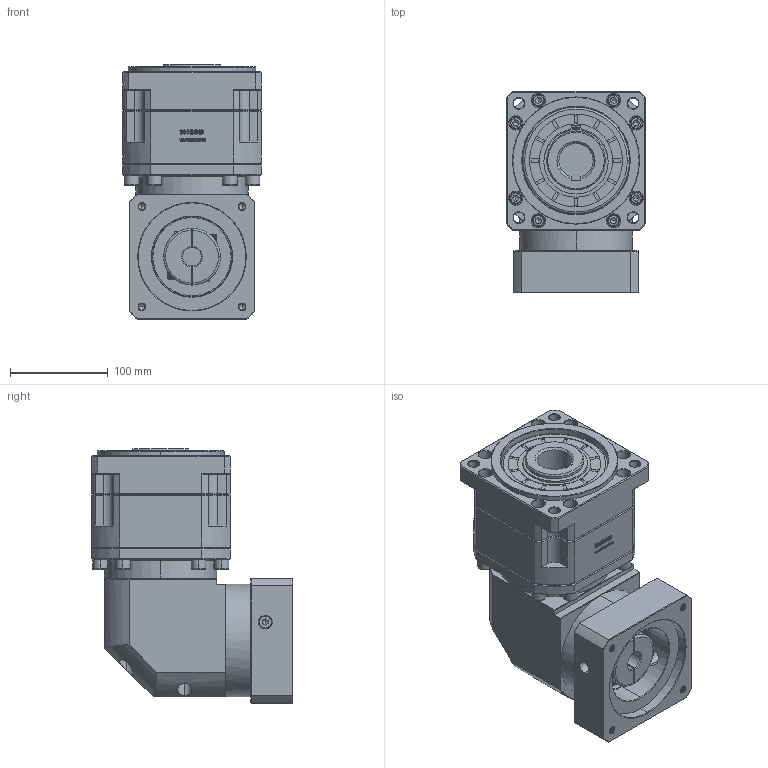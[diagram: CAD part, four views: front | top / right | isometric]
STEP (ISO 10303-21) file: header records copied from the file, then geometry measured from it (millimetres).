
FILE_DESCRIPTION (( 'STEP AP214' ), '1' );
FILE_NAME ('ZBR142A-K35-L2-19-110-145-M8.step', '2023-03-20T04:14:18', ( '' ), ( '' ), 'SwSTEP 2.0', 'SolidWorks 2016', '' );
FILE_SCHEMA (( 'AUTOMOTIVE_DESIGN' ));
Length unit declared in the file: millimetre
Products named in the file (1): ZBR142A-K35-L2-19-110-145-M8
Bounding box: 142 x 205.9 x 260.2 mm (x, y, z)
Volume: 4318815.7 mm3; surface area: 319344.9 mm2
Topology: 6 solids, 6 shells, 3132 faces, 8256 edges, 5291 vertices
Faces by surface type: plane 1645, bspline 586, cylinder 465, cone 392, torus 44
Entity records: 164145 total; most frequent: CARTESIAN_POINT 56745, ORIENTED_EDGE 16408, DIRECTION 12868, EDGE_CURVE 8204, LINE 5530, VECTOR 5530, VERTEX_POINT 5291, AXIS2_PLACEMENT_3D 3669
